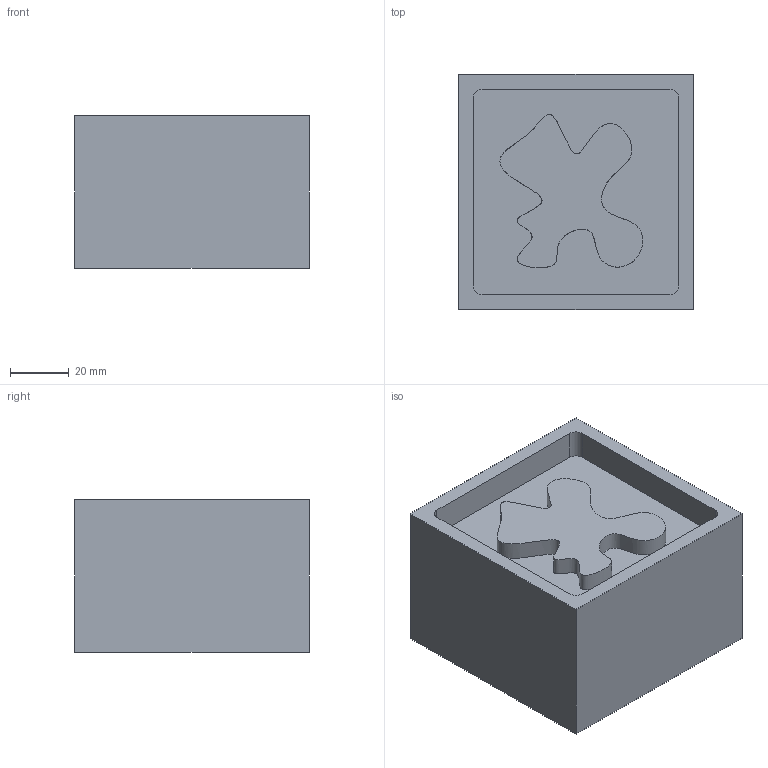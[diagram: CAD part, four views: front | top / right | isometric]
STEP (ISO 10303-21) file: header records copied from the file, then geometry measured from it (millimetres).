
FILE_DESCRIPTION(/* description */ (''),/* implementation_level */ '2;1');
FILE_NAME(/* name */ '7.step',/* time_stamp */ '2025-09-02T11:27:14+02:00',/* author */ (''),/* organization */ (''),/* preprocessor_version */ 'ST-DEVELOPER v20.1',/* originating_system */ 'Autodesk Translation Framework v14.10.0.0',/* authorisation */ '');
FILE_SCHEMA (('AUTOMOTIVE_DESIGN { 1 0 10303 214 3 1 1 }'));
Length unit declared in the file: millimetre
Products named in the file (1): Stufe 6
Bounding box: 80 x 80 x 52 mm (x, y, z)
Volume: 293303 mm3; surface area: 33535.2 mm2
Topology: 1 solids, 1 shells, 17 faces, 39 edges, 26 vertices
Faces by surface type: plane 12, cylinder 4, bspline 1
Entity records: 901 total; most frequent: CARTESIAN_POINT 480, DIRECTION 79, ORIENTED_EDGE 78, EDGE_CURVE 39, LINE 29, VECTOR 29, VERTEX_POINT 26, AXIS2_PLACEMENT_3D 25
